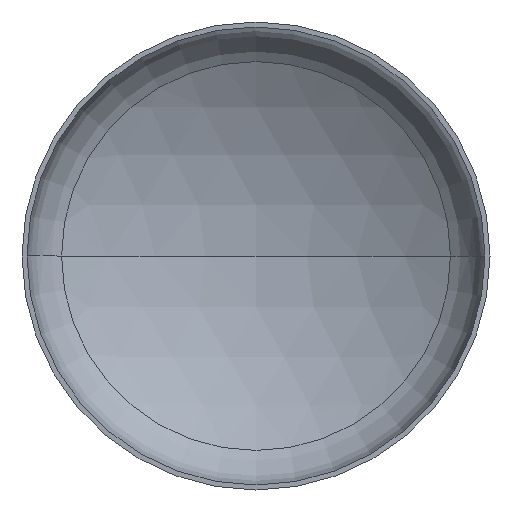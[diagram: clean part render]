
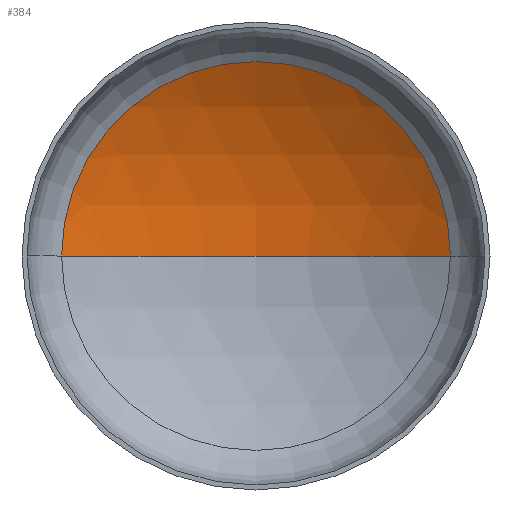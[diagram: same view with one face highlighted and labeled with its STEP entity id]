
A CAD part, front view. The second image highlights one B-rep face of the part: STEP entity #384.
In plain terms, the highlighted spherical face has radius 1120 mm.
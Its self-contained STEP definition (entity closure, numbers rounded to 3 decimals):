
#4 = DIRECTION ( 'NONE',  ( 0., 0., -1. ) ) ;
#23 = ORIENTED_EDGE ( 'NONE', *, *, #113, .T. ) ;
#38 = ORIENTED_EDGE ( 'NONE', *, *, #118, .F. ) ;
#39 = VERTEX_POINT ( 'NONE', #241 ) ;
#44 = VERTEX_POINT ( 'NONE', #163 ) ;
#63 = AXIS2_PLACEMENT_3D ( 'NONE', #160, #323, #184 ) ;
#69 = AXIS2_PLACEMENT_3D ( 'NONE', #256, #4, #277 ) ;
#74 = AXIS2_PLACEMENT_3D ( 'NONE', #343, #206, #368 ) ;
#111 = EDGE_CURVE ( 'NONE', #120, #39, #166, .T. ) ;
#113 = EDGE_CURVE ( 'NONE', #44, #120, #286, .T. ) ;
#118 = EDGE_CURVE ( 'NONE', #44, #39, #222, .T. ) ;
#120 = VERTEX_POINT ( 'NONE', #182 ) ;
#122 = ORIENTED_EDGE ( 'NONE', *, *, #111, .T. ) ;
#130 = EDGE_LOOP ( 'NONE', ( #38, #23, #122 ) ) ;
#160 = CARTESIAN_POINT ( 'NONE',  ( 0., -728.385, 0. ) ) ;
#163 = CARTESIAN_POINT ( 'NONE',  ( 0., 391.615, 0. ) ) ;
#166 = CIRCLE ( 'NONE', #74, 581.657 ) ;
#170 = FACE_OUTER_BOUND ( 'NONE', #130, .T. ) ;
#182 = CARTESIAN_POINT ( 'NONE',  ( 581.657, 228.732, 0. ) ) ;
#184 = DIRECTION ( 'NONE',  ( 1., 0., 0. ) ) ;
#193 = CARTESIAN_POINT ( 'NONE',  ( 0., -728.385, 0. ) ) ;
#195 = DIRECTION ( 'NONE',  ( -1., 0., 0. ) ) ;
#206 = DIRECTION ( 'NONE',  ( 0., -1., 0. ) ) ;
#216 = DIRECTION ( 'NONE',  ( 0., 0., -1. ) ) ;
#222 = CIRCLE ( 'NONE', #63, 1120. ) ;
#224 = SPHERICAL_SURFACE ( 'NONE', #254, 1120. ) ;
#241 = CARTESIAN_POINT ( 'NONE',  ( -581.657, 228.732, 0. ) ) ;
#254 = AXIS2_PLACEMENT_3D ( 'NONE', #193, #216, #195 ) ;
#256 = CARTESIAN_POINT ( 'NONE',  ( 0., -728.385, 0. ) ) ;
#277 = DIRECTION ( 'NONE',  ( -1., 0., 0. ) ) ;
#286 = CIRCLE ( 'NONE', #69, 1120. ) ;
#323 = DIRECTION ( 'NONE',  ( 0., 0., 1. ) ) ;
#343 = CARTESIAN_POINT ( 'NONE',  ( 0., 228.732, 0. ) ) ;
#368 = DIRECTION ( 'NONE',  ( 1., 0., 0. ) ) ;
#384 = ADVANCED_FACE ( 'NONE', ( #170 ), #224, .F. ) ;
